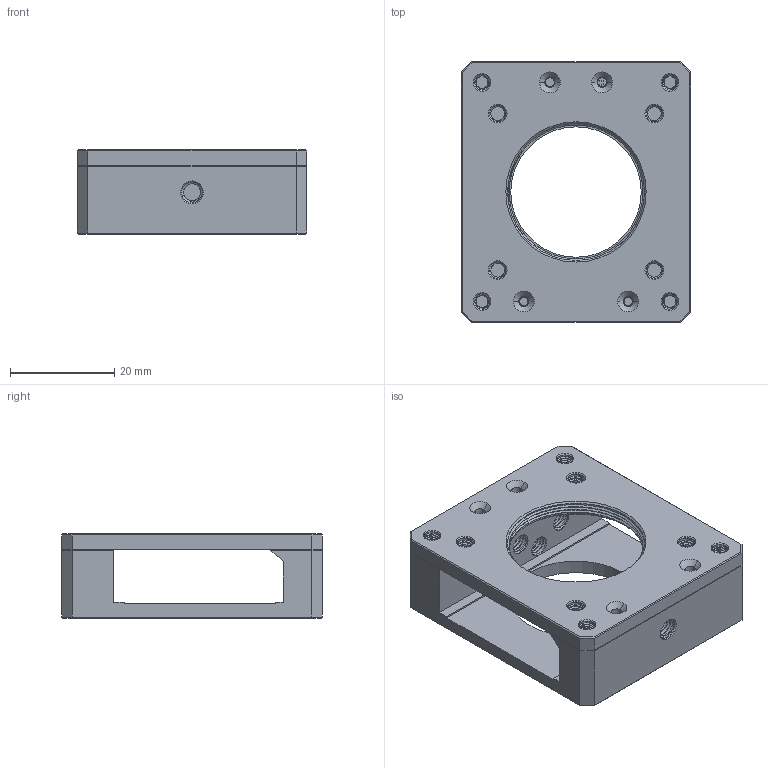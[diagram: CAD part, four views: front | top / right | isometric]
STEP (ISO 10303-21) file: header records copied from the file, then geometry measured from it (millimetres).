
FILE_DESCRIPTION((''),'2;1');
FILE_NAME('CWO-X_ASM','2020-10-19T',('Administrator'),(''),'CREO PARAMETRIC BY PTC INC, 2015290','CREO PARAMETRIC BY PTC INC, 2015290','');
FILE_SCHEMA(('CONFIG_CONTROL_DESIGN'));
Products named in the file (5): CWO-X_A1; M3X10_HM; CWO-X_A2; SPRING_4X10; CWO-X_ASM
Assembly tree (10 placements, depth 2):
  CWO-X_ASM
    CWO-X_A1
    M3X10_HM  x4
    CWO-X_A2
    SPRING_4X10  x4
Bounding box: 44 x 50 x 16.12 mm (x, y, z)
Volume: 16272 mm3; surface area: 13818.3 mm2
Topology: 10 solids, 10 shells, 918 faces, 2406 edges, 1536 vertices
Faces by surface type: cylinder 482, bspline 216, plane 126, cone 78, torus 16
Entity records: 52622 total; most frequent: CARTESIAN_POINT 35959, ORIENTED_EDGE 4026, DIRECTION 2431, EDGE_CURVE 2013, VERTEX_POINT 1284, B_SPLINE_CURVE_WITH_KNOTS 994, AXIS2_PLACEMENT_3D 824, EDGE_LOOP 817
